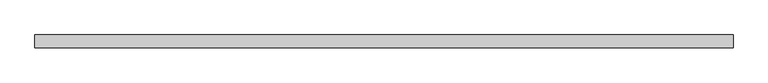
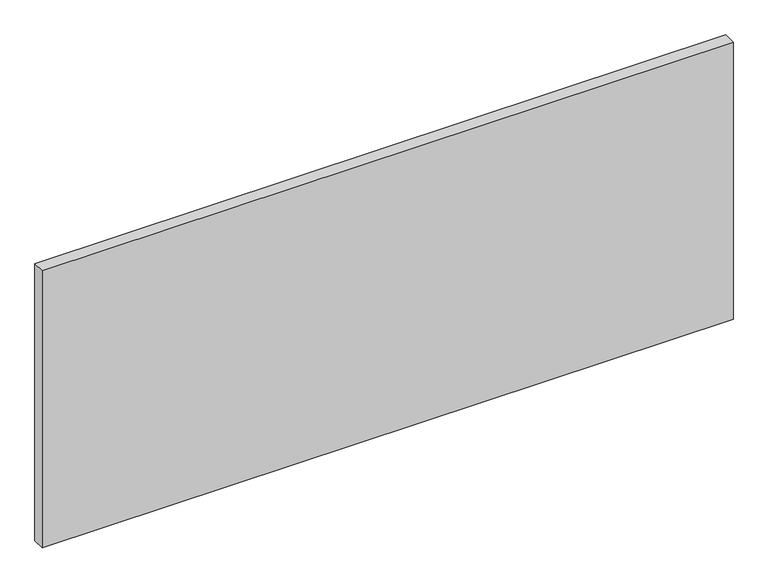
"""IFC4 building model written with IfcOpenShell, lengths in millimetres: plate geometry, Lod 200 Ritmica 930 Horizontal : Azuro."""

from ifc_helpers import new_model, si_unit, origin, origin_with_axes, place, context, project, spatial, polyline, outline, extrude, source, transform, mapped, element, save


def plate_bbb39bd2(model_context):
    return source(origin(), model_context, "Body", "SweptSolid", [
        extrude(outline(polyline([(1097.5, -40.0), (-1097.5, -40.0), (-1097.5, 0.0), (1097.5, 0.0), (1097.5, -40.0)])), origin_with_axes(), (0.0, 0.0, 1.0), 930.0),
    ])


if __name__ == "__main__":
    model = new_model("IFC4")
    model_context = context("Model", 3, world=origin())
    ifc_project = project(units=[si_unit("LENGTHUNIT", "METRE", prefix="MILLI")], contexts=[model_context])
    site = spatial("IfcSite", under=ifc_project)
    building = spatial("IfcBuilding", under=site)
    placement = place(None, origin())
    plate_shape = plate_bbb39bd2(model_context)
    element("IfcPlate", 1, ObjectType="Lod 200 Ritmica 930 Horizontal : Azuro", at=placement, inside=building, context=model_context, shape_type="MappedRepresentation", body=[
        mapped(plate_shape, transform((0.0, 0.0, 0.0), x_axis=(1.0, 0.0, 0.0), y_axis=(0.0, 1.0, 0.0), z_axis=(0.0, 0.0, 1.0))),
    ])
    save(model, "model.ifc")
